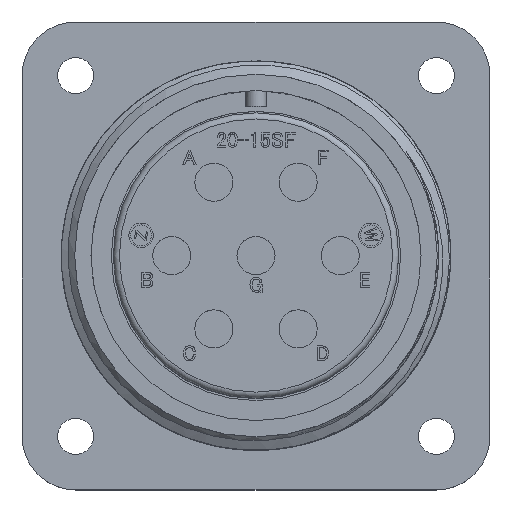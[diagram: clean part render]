
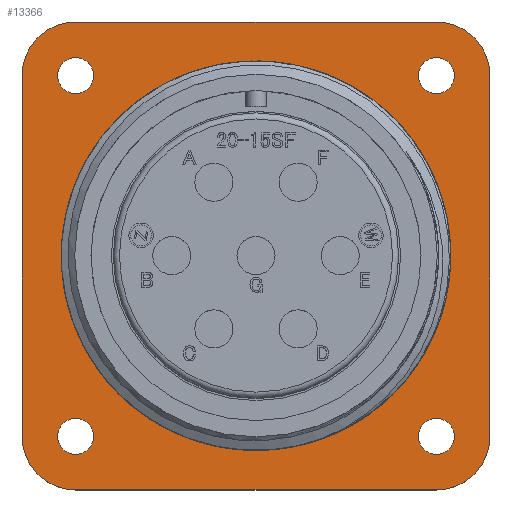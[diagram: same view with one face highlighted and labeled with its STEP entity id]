
A CAD part, top view. The second image highlights one B-rep face of the part: STEP entity #13366.
In plain terms, the highlighted planar face has unit normal (0, 0, 1).
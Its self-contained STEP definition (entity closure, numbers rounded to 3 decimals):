
#445 = EDGE_CURVE ( 'NONE', #20973, #52341, #25765, .T. ) ;
#1647 = AXIS2_PLACEMENT_3D ( 'NONE', #26040, #58419, #30045 ) ;
#1734 = EDGE_LOOP ( 'NONE', ( #43307 ) ) ;
#1835 = CARTESIAN_POINT ( 'NONE',  ( -19.05, 14.68, -19.24 ) ) ;
#1940 = DIRECTION ( 'NONE',  ( -1., 0., 0. ) ) ;
#2072 = EDGE_LOOP ( 'NONE', ( #14280 ) ) ;
#2475 = FACE_BOUND ( 'NONE', #27089, .T. ) ;
#2666 = EDGE_CURVE ( 'NONE', #52341, #23971, #16221, .T. ) ;
#3520 = ORIENTED_EDGE ( 'NONE', *, *, #45719, .F. ) ;
#3789 = ORIENTED_EDGE ( 'NONE', *, *, #2666, .F. ) ;
#3899 = CARTESIAN_POINT ( 'NONE',  ( -14.68, 19.05, -19.24 ) ) ;
#3984 = LINE ( 'NONE', #13654, #22063 ) ;
#4119 = DIRECTION ( 'NONE',  ( 0., 0., 1. ) ) ;
#6069 = CARTESIAN_POINT ( 'NONE',  ( 19.05, 14.68, -19.24 ) ) ;
#6528 = CARTESIAN_POINT ( 'NONE',  ( -14.68, 19.05, -19.24 ) ) ;
#7175 = CARTESIAN_POINT ( 'NONE',  ( -14.68, -19.05, -19.24 ) ) ;
#7663 = CIRCLE ( 'NONE', #24928, 1.465 ) ;
#8562 = DIRECTION ( 'NONE',  ( 1., 0., 0. ) ) ;
#8652 = DIRECTION ( 'NONE',  ( 0., 0., 1. ) ) ;
#8961 = EDGE_CURVE ( 'NONE', #39011, #39011, #26729, .T. ) ;
#8967 = AXIS2_PLACEMENT_3D ( 'NONE', #22100, #4119, #13618 ) ;
#9358 = VERTEX_POINT ( 'NONE', #6528 ) ;
#9700 = VECTOR ( 'NONE', #15188, 1000. ) ;
#9941 = CARTESIAN_POINT ( 'NONE',  ( -19.05, -14.68, -19.24 ) ) ;
#10454 = EDGE_CURVE ( 'NONE', #18726, #10460, #3984, .T. ) ;
#10460 = VERTEX_POINT ( 'NONE', #18498 ) ;
#11052 = DIRECTION ( 'NONE',  ( 0., 0., 1. ) ) ;
#11600 = DIRECTION ( 'NONE',  ( 0., 0., -1. ) ) ;
#12819 = PLANE ( 'NONE',  #8967 ) ;
#13338 = FACE_BOUND ( 'NONE', #2072, .T. ) ;
#13366 = ADVANCED_FACE ( 'NONE', ( #15466, #51465, #30599, #2475, #32771, #13338 ), #12819, .T. ) ;
#13618 = DIRECTION ( 'NONE',  ( 1., 0., 0. ) ) ;
#13654 = CARTESIAN_POINT ( 'NONE',  ( 19.05, 14.68, -19.24 ) ) ;
#14280 = ORIENTED_EDGE ( 'NONE', *, *, #54734, .F. ) ;
#15188 = DIRECTION ( 'NONE',  ( 0., 1., 0. ) ) ;
#15466 = FACE_BOUND ( 'NONE', #40405, .T. ) ;
#16221 = LINE ( 'NONE', #1835, #9700 ) ;
#16924 = EDGE_LOOP ( 'NONE', ( #19672 ) ) ;
#17323 = ORIENTED_EDGE ( 'NONE', *, *, #20953, .F. ) ;
#18102 = DIRECTION ( 'NONE',  ( 0., -1., 0. ) ) ;
#18149 = CARTESIAN_POINT ( 'NONE',  ( 14.685, 14.685, -19.24 ) ) ;
#18221 = ORIENTED_EDGE ( 'NONE', *, *, #58191, .F. ) ;
#18347 = CARTESIAN_POINT ( 'NONE',  ( -14.68, -14.68, -19.24 ) ) ;
#18359 = ORIENTED_EDGE ( 'NONE', *, *, #20347, .F. ) ;
#18498 = CARTESIAN_POINT ( 'NONE',  ( 19.05, -14.68, -19.24 ) ) ;
#18726 = VERTEX_POINT ( 'NONE', #6069 ) ;
#19672 = ORIENTED_EDGE ( 'NONE', *, *, #55084, .F. ) ;
#20347 = EDGE_CURVE ( 'NONE', #23971, #9358, #31598, .T. ) ;
#20926 = DIRECTION ( 'NONE',  ( -1., 0., 0. ) ) ;
#20953 = EDGE_CURVE ( 'NONE', #45408, #18726, #59206, .T. ) ;
#20973 = VERTEX_POINT ( 'NONE', #44310 ) ;
#21975 = EDGE_CURVE ( 'NONE', #9358, #45408, #55031, .T. ) ;
#22063 = VECTOR ( 'NONE', #18102, 1000. ) ;
#22100 = CARTESIAN_POINT ( 'NONE',  ( 0., 0., -19.24 ) ) ;
#22294 = DIRECTION ( 'NONE',  ( 0., 0., 1. ) ) ;
#23350 = AXIS2_PLACEMENT_3D ( 'NONE', #40964, #22294, #54856 ) ;
#23362 = ORIENTED_EDGE ( 'NONE', *, *, #445, .F. ) ;
#23971 = VERTEX_POINT ( 'NONE', #45968 ) ;
#24928 = AXIS2_PLACEMENT_3D ( 'NONE', #18149, #8652, #59783 ) ;
#25177 = DIRECTION ( 'NONE',  ( 1., 0., 0. ) ) ;
#25500 = VERTEX_POINT ( 'NONE', #34620 ) ;
#25765 = CIRCLE ( 'NONE', #32921, 4.37 ) ;
#26040 = CARTESIAN_POINT ( 'NONE',  ( 14.68, 14.68, -19.24 ) ) ;
#26729 = CIRCLE ( 'NONE', #34256, 1.465 ) ;
#27089 = EDGE_LOOP ( 'NONE', ( #18221 ) ) ;
#27182 = DIRECTION ( 'NONE',  ( 1., 0., 0. ) ) ;
#27291 = CARTESIAN_POINT ( 'NONE',  ( -14.685, 14.685, -19.24 ) ) ;
#30045 = DIRECTION ( 'NONE',  ( 1., 0., 0. ) ) ;
#30412 = CARTESIAN_POINT ( 'NONE',  ( 14.68, -14.68, -19.24 ) ) ;
#30599 = FACE_BOUND ( 'NONE', #1734, .T. ) ;
#30932 = CARTESIAN_POINT ( 'NONE',  ( 15.855, 0., -19.24 ) ) ;
#31134 = CARTESIAN_POINT ( 'NONE',  ( 16.15, -14.685, -19.24 ) ) ;
#31297 = VECTOR ( 'NONE', #45589, 1000. ) ;
#31598 = CIRCLE ( 'NONE', #34858, 4.37 ) ;
#32472 = VERTEX_POINT ( 'NONE', #30932 ) ;
#32771 = FACE_OUTER_BOUND ( 'NONE', #34206, .T. ) ;
#32921 = AXIS2_PLACEMENT_3D ( 'NONE', #18347, #45490, #27182 ) ;
#33625 = CARTESIAN_POINT ( 'NONE',  ( -16.15, -14.685, -19.24 ) ) ;
#34206 = EDGE_LOOP ( 'NONE', ( #48122, #3520, #40484, #17323, #54547, #18359, #3789, #23362 ) ) ;
#34256 = AXIS2_PLACEMENT_3D ( 'NONE', #56925, #34392, #1940 ) ;
#34392 = DIRECTION ( 'NONE',  ( 0., 0., 1. ) ) ;
#34620 = CARTESIAN_POINT ( 'NONE',  ( 14.68, -19.05, -19.24 ) ) ;
#34858 = AXIS2_PLACEMENT_3D ( 'NONE', #58097, #11600, #43989 ) ;
#35220 = CIRCLE ( 'NONE', #58578, 4.37 ) ;
#36251 = CIRCLE ( 'NONE', #52299, 1.465 ) ;
#36742 = DIRECTION ( 'NONE',  ( 0., 0., 1. ) ) ;
#37070 = ORIENTED_EDGE ( 'NONE', *, *, #8961, .F. ) ;
#38660 = CARTESIAN_POINT ( 'NONE',  ( 13.22, 14.685, -19.24 ) ) ;
#39011 = VERTEX_POINT ( 'NONE', #33625 ) ;
#39847 = EDGE_CURVE ( 'NONE', #45478, #45478, #7663, .T. ) ;
#40405 = EDGE_LOOP ( 'NONE', ( #37070 ) ) ;
#40484 = ORIENTED_EDGE ( 'NONE', *, *, #10454, .F. ) ;
#40780 = VECTOR ( 'NONE', #20926, 1000. ) ;
#40964 = CARTESIAN_POINT ( 'NONE',  ( 0., 0., -19.24 ) ) ;
#43307 = ORIENTED_EDGE ( 'NONE', *, *, #39847, .F. ) ;
#43989 = DIRECTION ( 'NONE',  ( 1., 0., 0. ) ) ;
#44310 = CARTESIAN_POINT ( 'NONE',  ( -14.68, -19.05, -19.24 ) ) ;
#45408 = VERTEX_POINT ( 'NONE', #53187 ) ;
#45478 = VERTEX_POINT ( 'NONE', #38660 ) ;
#45490 = DIRECTION ( 'NONE',  ( 0., 0., -1. ) ) ;
#45589 = DIRECTION ( 'NONE',  ( 1., 0., 0. ) ) ;
#45719 = EDGE_CURVE ( 'NONE', #10460, #25500, #35220, .T. ) ;
#45968 = CARTESIAN_POINT ( 'NONE',  ( -19.05, 14.68, -19.24 ) ) ;
#46919 = CIRCLE ( 'NONE', #23350, 15.855 ) ;
#47861 = CARTESIAN_POINT ( 'NONE',  ( 14.685, -14.685, -19.24 ) ) ;
#48122 = ORIENTED_EDGE ( 'NONE', *, *, #50478, .F. ) ;
#48766 = AXIS2_PLACEMENT_3D ( 'NONE', #47861, #11052, #25177 ) ;
#49410 = CARTESIAN_POINT ( 'NONE',  ( -13.22, 14.685, -19.24 ) ) ;
#49480 = DIRECTION ( 'NONE',  ( 1., 0., 0. ) ) ;
#50478 = EDGE_CURVE ( 'NONE', #25500, #20973, #53020, .T. ) ;
#51465 = FACE_BOUND ( 'NONE', #16924, .T. ) ;
#51871 = VERTEX_POINT ( 'NONE', #49410 ) ;
#52299 = AXIS2_PLACEMENT_3D ( 'NONE', #27291, #36742, #8562 ) ;
#52341 = VERTEX_POINT ( 'NONE', #9941 ) ;
#53020 = LINE ( 'NONE', #7175, #40780 ) ;
#53187 = CARTESIAN_POINT ( 'NONE',  ( 14.68, 19.05, -19.24 ) ) ;
#53355 = DIRECTION ( 'NONE',  ( 0., 0., -1. ) ) ;
#54547 = ORIENTED_EDGE ( 'NONE', *, *, #21975, .F. ) ;
#54734 = EDGE_CURVE ( 'NONE', #32472, #32472, #46919, .T. ) ;
#54856 = DIRECTION ( 'NONE',  ( 1., 0., 0. ) ) ;
#55031 = LINE ( 'NONE', #3899, #31297 ) ;
#55084 = EDGE_CURVE ( 'NONE', #55510, #55510, #57056, .T. ) ;
#55510 = VERTEX_POINT ( 'NONE', #31134 ) ;
#56925 = CARTESIAN_POINT ( 'NONE',  ( -14.685, -14.685, -19.24 ) ) ;
#57056 = CIRCLE ( 'NONE', #48766, 1.465 ) ;
#58097 = CARTESIAN_POINT ( 'NONE',  ( -14.68, 14.68, -19.24 ) ) ;
#58191 = EDGE_CURVE ( 'NONE', #51871, #51871, #36251, .T. ) ;
#58419 = DIRECTION ( 'NONE',  ( 0., 0., -1. ) ) ;
#58578 = AXIS2_PLACEMENT_3D ( 'NONE', #30412, #53355, #49480 ) ;
#59206 = CIRCLE ( 'NONE', #1647, 4.37 ) ;
#59783 = DIRECTION ( 'NONE',  ( -1., 0., 0. ) ) ;
